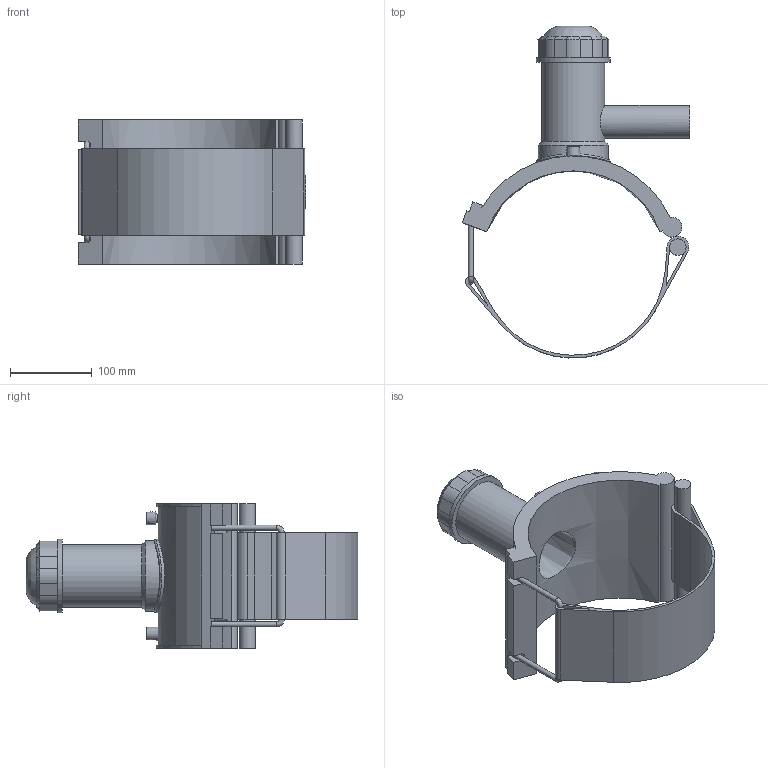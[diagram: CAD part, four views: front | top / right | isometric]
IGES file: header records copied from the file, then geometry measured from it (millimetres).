
Global section: file name: 496304225040.ipt; native system: Autodesk Inventor 2015; preprocessor: unknown; author: KIM; date: 20190124.131217; units: millimetre
Bounding box: 277.32 x 405.2 x 176 mm (x, y, z)
Volume: 1617944.3 mm3; surface area: 350178 mm2
Topology: 2 solids, 2 shells, 121 faces, 301 edges, 191 vertices
Faces by surface type: plane 68, cylinder 29, revolution 12, cone 11, bspline 1
Full cylindrical faces by diameter (mm): 4 x2, 6.3 x2, 19.904 x1, 40 x1, 76.5 x1, 85.5 x1, 90 x2
